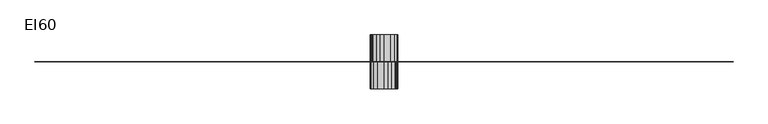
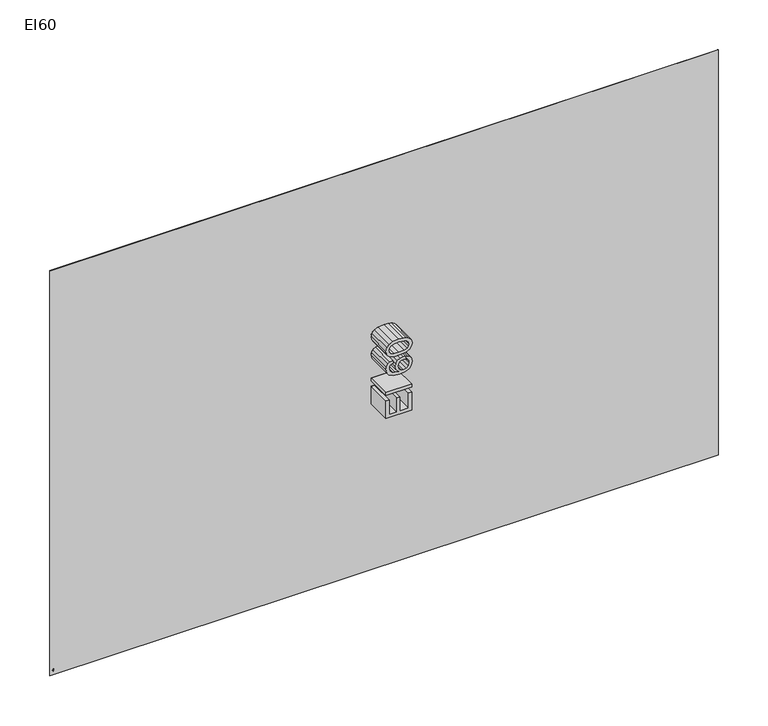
"""IFC4 building model written with IfcOpenShell, lengths in millimetres: proxy geometry, Fire_FireCompartmentationEI : EI60."""

from ifc_helpers import new_model, si_unit, point, frame, frame_2d, origin, origin_with_axes, place, context, project, spatial, polyline, circle_curve, trimmed, segment, composite_curve, outline, extrude, source, transform, mapped, element, save


def ei60_135c5abb(model_context):
    return source(origin(), model_context, "Body", "SweptSolid", [
        extrude(outline(polyline([(3900.0, -0.5), (0.0, -0.5), (0.0, 0.5), (3900.0, 0.5), (3900.0, -0.5)])), origin_with_axes(), (0.0, 0.0, 1.0), 2500.0),
        extrude(outline(composite_curve([segment(trimmed(circle_curve(frame_2d((28.9488523, 20.9372462)), 4.3000253), [point((27.7936078, 25.0791815))], [point((29.724042, 25.1668205))], False, "CARTESIAN"), True, "CONTINUOUS"), segment(trimmed(circle_curve(frame_2d((29.6833004, 19.2917407)), 5.875221), [point((29.724042, 25.1668205))], [point((32.6283278, 24.3755421))], False, "CARTESIAN"), True, "CONTINUOUS"), segment(trimmed(circle_curve(frame_2d((32.8576867, 20.8662932)), 3.5167361), [point((32.6283278, 24.3755421))], [point((30.6249304, 23.5833197))], True, "CARTESIAN"), True, "CONTINUOUS"), segment(trimmed(circle_curve(frame_2d((10.876956, 53.8348059)), 36.1266511), [point((30.6249304, 23.5833197))], [point((25.8949704, 20.9776277))], False, "CARTESIAN"), True, "CONTINUOUS"), segment(trimmed(circle_curve(frame_2d((21.9041848, 33.757735)), 13.3887083), [point((25.8949704, 20.9776277))], [point((22.6832699, 20.3917132))], False, "CARTESIAN"), True, "CONTINUOUS"), segment(trimmed(circle_curve(frame_2d((20.9508608, 39.8789486)), 19.5640891), [point((22.6832699, 20.3917132))], [point((20.0109811, 20.3374489))], False, "CARTESIAN"), True, "CONTINUOUS"), segment(trimmed(circle_curve(frame_2d((18.2722891, 30.1747881)), 9.9898094), [point((20.0109811, 20.3374489))], [point((25.2489423, 23.0247809))], True, "CARTESIAN"), True, "CONTINUOUS"), segment(trimmed(circle_curve(frame_2d((30.9774835, 18.5323372)), 7.2799887), [point((25.2489423, 23.0247809))], [point((27.7936078, 25.0791815))], False, "CARTESIAN"), True, "CONTINUOUS")], self_intersect=False)), frame((0.0, -0.6, 0.0), z_axis=(0.0, 1.0, 0.0), x_axis=(0.0, 0.0, 1.0)), (0.0, 0.0, 1.0), 1.2),
        extrude(outline(composite_curve([segment(trimmed(circle_curve(frame_2d((34.8553456, 17.4656787)), 4.3823741), [point((35.4675373, 21.8050824))], [point((32.7666638, 21.3182897))], True, "CARTESIAN"), True, "CONTINUOUS"), segment(trimmed(circle_curve(frame_2d((31.0348418, 25.2412811)), 4.2882478), [point((32.7666638, 21.3182897))], [point((31.0556823, 20.9530839))], False, "CARTESIAN"), True, "CONTINUOUS"), segment(trimmed(circle_curve(frame_2d((30.8661112, 26.3534755)), 5.4037178), [point((31.0556823, 20.9530839))], [point((28.4262544, 21.5319337))], False, "CARTESIAN"), True, "CONTINUOUS"), segment(trimmed(circle_curve(frame_2d((28.9867579, 26.8058524)), 5.3036197), [point((28.4262544, 21.5319337))], [point((30.6443727, 21.7679267))], True, "CARTESIAN"), True, "CONTINUOUS"), segment(trimmed(circle_curve(frame_2d((33.7648144, 18.2895153)), 4.6729544), [point((30.6443727, 21.7679267))], [point((32.5632515, 22.8053485))], False, "CARTESIAN"), True, "CONTINUOUS"), segment(trimmed(circle_curve(frame_2d((33.1708117, 19.8529583)), 3.0142556), [point((32.5632515, 22.8053485))], [point((35.4675373, 21.8050824))], False, "CARTESIAN"), True, "CONTINUOUS")], self_intersect=False)), frame((0.0, -0.6, 0.0), z_axis=(0.0, 1.0, 0.0), x_axis=(0.0, 0.0, 1.0)), (0.0, 0.0, 1.0), 1.2),
        extrude(outline(composite_curve([segment(trimmed(circle_curve(frame_2d((26.35828, 17.8501973)), 2.1465167), [point((27.6612009, 19.5560492))], [point((26.6135063, 19.9814864))], True, "CARTESIAN"), True, "CONTINUOUS"), segment(trimmed(circle_curve(frame_2d((25.771558, 13.6747037)), 6.3627341), [point((26.6135063, 19.9814864))], [point((25.1811141, 20.0099828))], True, "CARTESIAN"), True, "CONTINUOUS"), segment(trimmed(circle_curve(frame_2d((27.6708438, 15.0485986)), 5.5510437), [point((25.1811141, 20.0099828))], [point((27.8117089, 20.5978547))], False, "CARTESIAN"), True, "CONTINUOUS"), segment(trimmed(circle_curve(frame_2d((27.9681735, 17.2267436)), 3.3747401), [point((27.8117089, 20.5978547))], [point((29.507487, 20.2299728))], False, "CARTESIAN"), True, "CONTINUOUS"), segment(trimmed(circle_curve(frame_2d((31.5381431, 23.6896238)), 4.0115769), [point((29.507487, 20.2299728))], [point((32.2223971, 19.7368341))], True, "CARTESIAN"), True, "CONTINUOUS"), segment(trimmed(circle_curve(frame_2d((29.9256715, 21.6889582)), 3.0142556), [point((32.2223971, 19.7368341))], [point((29.3181113, 18.736568))], False, "CARTESIAN"), True, "CONTINUOUS"), segment(trimmed(circle_curve(frame_2d((30.5170043, 23.2454076)), 4.6655095), [point((29.3181113, 18.736568))], [point((27.6612009, 19.5560492))], False, "CARTESIAN"), True, "CONTINUOUS")], self_intersect=False)), frame((0.0, -0.6, 0.0), z_axis=(0.0, 1.0, 0.0), x_axis=(0.0, 0.0, 1.0)), (0.0, 0.0, 1.0), 1.2),
        extrude(outline(composite_curve([segment(trimmed(circle_curve(frame_2d((32.8467056, 19.4711557)), 3.5167361), [point((30.6139493, 16.7541292))], [point((32.6173467, 15.9619068))], True, "CARTESIAN"), True, "CONTINUOUS"), segment(trimmed(circle_curve(frame_2d((29.6723193, 21.0457082)), 5.875221), [point((32.6173467, 15.9619068))], [point((29.7130609, 15.1706284))], False, "CARTESIAN"), True, "CONTINUOUS"), segment(trimmed(circle_curve(frame_2d((28.9378712, 19.4002026)), 4.3000253), [point((29.7130609, 15.1706284))], [point((27.7826267, 15.2582674))], False, "CARTESIAN"), True, "CONTINUOUS"), segment(trimmed(circle_curve(frame_2d((30.9665024, 21.8051117)), 7.2799887), [point((27.7826267, 15.2582674))], [point((25.2379612, 17.312668))], False, "CARTESIAN"), True, "CONTINUOUS"), segment(trimmed(circle_curve(frame_2d((18.261308, 10.1626608)), 9.9898094), [point((25.2379612, 17.312668))], [point((20.0, 20.0))], True, "CARTESIAN"), True, "CONTINUOUS"), segment(trimmed(circle_curve(frame_2d((20.9398797, 0.4585003)), 19.5640891), [point((20.0, 20.0))], [point((22.6722888, 19.9457357))], False, "CARTESIAN"), True, "CONTINUOUS"), segment(trimmed(circle_curve(frame_2d((21.8932037, 6.5797139)), 13.3887083), [point((22.6722888, 19.9457357))], [point((25.8839893, 19.3598212))], False, "CARTESIAN"), True, "CONTINUOUS"), segment(trimmed(circle_curve(frame_2d((10.8659749, -13.497357)), 36.1266511), [point((25.8839893, 19.3598212))], [point((30.6139493, 16.7541292))], False, "CARTESIAN"), True, "CONTINUOUS")], self_intersect=False)), frame((0.0, -0.6, 0.0), z_axis=(0.0, 1.0, 0.0), x_axis=(0.0, 0.0, 1.0)), (0.0, 0.0, 1.0), 1.2),
        extrude(outline(polyline([(1022.7960798, 1875.0), (1022.7960798, 2025.6844652), (1131.1005392, 2025.6844652), (1131.1005392, 2006.8489071), (1041.6316379, 2006.8489071), (1041.6316379, 1962.1144565), (1126.3916496, 1962.1144565), (1126.3916496, 1943.2788983), (1041.6316379, 1943.2788983), (1041.6316379, 1893.8355582), (1133.4549839, 1893.8355582), (1133.4549839, 1875.0), (1022.7960798, 1875.0)])), frame((0.0, 0.0, 0.0), z_axis=(0.0, 1.0, 0.0), x_axis=(0.0, 0.0, 1.0)), (0.0, 0.0, 1.0), 150.0),
        extrude(outline(polyline([(1875.0, 150.0), (2025.6844652, 150.0), (2025.6844652, 0.0), (1875.0, 0.0), (1875.0, 150.0)])), frame((0.0, 0.0, 1164.0627659), z_axis=(0.0, 0.0, 1.0), x_axis=(1.0, 0.0, 0.0)), (0.0, 0.0, 1.0), 18.8355582),
        extrude(outline(polyline([(1368.8994608, 1985.6589041), (1350.0639027, 1983.3044594), (1342.926992, 1999.0130206), (1334.3829326, 2004.8899354), (1324.0546456, 2006.8489071), (1307.0584975, 2002.2871703), (1294.2010217, 1985.1622635), (1290.296874, 1971.1321639), (1288.8483387, 1951.5930314), (1305.4582108, 1966.6210109), (1326.0412084, 1971.5322355), (1343.4420268, 1968.1753123), (1358.046942, 1958.1045427), (1367.9521647, 1942.7178783), (1371.2539056, 1923.4132706), (1369.6996042, 1909.9257969), (1365.0366999, 1897.4224076), (1357.6514688, 1886.8182091), (1347.9301871, 1879.0283078), (1336.3143131, 1874.2412434), (1323.2453052, 1872.6455552), (1301.8759598, 1876.8761982), (1284.856819, 1889.568127), (1273.7237902, 1911.9721405), (1270.0127805, 1945.3390375), (1274.1330589, 1982.8538039), (1286.4938939, 2008.504376), (1303.3704805, 2021.3894429), (1325.231868, 2025.6844652), (1341.7589666, 2023.0265178), (1354.9935214, 2015.0526756), (1364.2641477, 2002.3883379), (1368.8994608, 1985.6589041)]), holes=[polyline([(1288.8483387, 1923.7075762), (1293.2077403, 1907.3920097), (1304.7960232, 1895.5462094), (1321.7737773, 1891.4811134), (1334.2035902, 1893.5872378), (1343.9754557, 1899.9056111), (1350.3076245, 1909.8384249), (1352.4183475, 1922.7878712), (1350.3352157, 1935.2176841), (1344.0858203, 1944.695244), (1334.1484079, 1950.696319), (1321.0012251, 1952.6966774), (1308.5898063, 1950.696319), (1298.2109355, 1944.695244), (1291.1889879, 1935.4476103), (1288.8483387, 1923.7075762)])]), frame((0.0, 0.0, 0.0), z_axis=(0.0, 1.0, 0.0), x_axis=(0.0, 0.0, 1.0)), (0.0, 0.0, 1.0), 150.0),
        extrude(outline(polyline([(1387.735019, 1949.128222), (1389.119175, 1973.2474853), (1393.271643, 1992.4831152), (1400.1510363, 2007.1294171), (1409.7159682, 2017.4806967), (1422.0354165, 2023.6335231), (1437.1783591, 2025.6844652), (1459.1777025, 2020.8284229), (1474.3712289, 2006.830513), (1483.2003967, 1984.5368641), (1486.6216993, 1949.128222), (1485.2513389, 1925.1469145), (1481.1402576, 1905.9572699), (1474.302251, 1891.2971724), (1464.7511147, 1880.904506), (1452.4040752, 1874.7102929), (1437.1783591, 1872.6455552), (1417.607037, 1876.2324047), (1402.7446044, 1886.992953), (1391.4874153, 1912.4779783), (1387.735019, 1949.128222)]), holes=[polyline([(1406.5705771, 1949.1650102), (1408.7778691, 1919.536714), (1415.399745, 1902.3888145), (1425.2589825, 1894.2080387), (1437.1783591, 1891.4811134), (1449.0977358, 1894.2172357), (1458.9569733, 1902.4256027), (1465.5788492, 1919.5826993), (1467.7861411, 1949.1650102), (1465.6524256, 1978.1265203), (1459.2512789, 1995.407777), (1449.4104355, 2003.9886246), (1436.9576299, 2006.8489071), (1425.167012, 2004.3289154), (1415.6940506, 1996.7689404), (1408.8514455, 1978.4116288), (1406.5705771, 1949.1650102)])]), frame((0.0, 0.0, 0.0), z_axis=(0.0, 1.0, 0.0), x_axis=(0.0, 0.0, 1.0)), (0.0, 0.0, 1.0), 150.0),
        extrude(outline(polyline([(1022.7960798, 2025.0), (1133.4549839, 2025.0), (1133.4549839, 2006.1644418), (1041.6316379, 2006.1644418), (1041.6316379, 1956.7211017), (1126.3916496, 1956.7211017), (1126.3916496, 1937.8855435), (1041.6316379, 1937.8855435), (1041.6316379, 1893.1510929), (1131.1005392, 1893.1510929), (1131.1005392, 1874.3155348), (1022.7960798, 1874.3155348), (1022.7960798, 2025.0)])), frame((0.0, -150.0, 0.0), z_axis=(0.0, 1.0, 0.0), x_axis=(0.0, 0.0, 1.0)), (0.0, 0.0, 1.0), 150.0),
        extrude(outline(polyline([(2025.0, -150.0), (1874.3155348, -150.0), (1874.3155348, 0.0), (2025.0, 0.0), (2025.0, -150.0)])), frame((0.0, 0.0, 1164.0627659), z_axis=(0.0, 0.0, 1.0), x_axis=(1.0, 0.0, 0.0)), (0.0, 0.0, 1.0), 18.8355582),
        extrude(outline(polyline([(1368.8994608, 1914.3410959), (1364.2641477, 1897.6116621), (1354.9935214, 1884.9473244), (1341.7589666, 1876.9734822), (1325.231868, 1874.3155348), (1303.3704805, 1878.6105571), (1286.4938939, 1891.495624), (1274.1330589, 1917.1461961), (1270.0127805, 1954.6609625), (1273.7237902, 1988.0278595), (1284.856819, 2010.431873), (1301.8759598, 2023.1238018), (1323.2453052, 2027.3544448), (1336.3143131, 2025.7587566), (1347.9301871, 2020.9716922), (1357.6514688, 2013.1817909), (1365.0366999, 2002.5775924), (1369.6996042, 1990.0742031), (1371.2539056, 1976.5867294), (1367.9521647, 1957.2821217), (1358.046942, 1941.8954573), (1343.4420268, 1931.8246877), (1326.0412084, 1928.4677645), (1305.4582108, 1933.3789891), (1288.8483387, 1948.4069686), (1290.296874, 1928.8678361), (1294.2010217, 1914.8377365), (1307.0584975, 1897.7128297), (1324.0546456, 1893.1510929), (1334.3829326, 1895.1100646), (1342.926992, 1900.9869794), (1350.0639027, 1916.6955406), (1368.8994608, 1914.3410959)]), holes=[polyline([(1288.8483387, 1976.2924238), (1291.1889879, 1964.5523897), (1298.2109355, 1955.304756), (1308.5898063, 1949.303681), (1321.0012251, 1947.3033226), (1334.1484079, 1949.303681), (1344.0858203, 1955.304756), (1350.3352157, 1964.7823159), (1352.4183475, 1977.2121288), (1350.3076245, 1990.1615751), (1343.9754557, 2000.0943889), (1334.2035902, 2006.4127622), (1321.7737773, 2008.5188866), (1304.7960232, 2004.4537906), (1293.2077403, 1992.6079903), (1288.8483387, 1976.2924238)])]), frame((0.0, -150.0, 0.0), z_axis=(0.0, 1.0, 0.0), x_axis=(0.0, 0.0, 1.0)), (0.0, 0.0, 1.0), 150.0),
        extrude(outline(polyline([(1387.735019, 1950.871778), (1391.4874153, 1987.5220217), (1402.7446044, 2013.007047), (1417.607037, 2023.7675953), (1437.1783591, 2027.3544448), (1452.4040752, 2025.2897071), (1464.7511147, 2019.095494), (1474.302251, 2008.7028276), (1481.1402576, 1994.0427301), (1485.2513389, 1974.8530855), (1486.6216993, 1950.871778), (1483.2003967, 1915.4631359), (1474.3712289, 1893.169487), (1459.1777025, 1879.1715771), (1437.1783591, 1874.3155348), (1422.0354165, 1876.3664769), (1409.7159682, 1882.5193033), (1400.1510363, 1892.8705829), (1393.271643, 1907.5168848), (1389.119175, 1926.7525147), (1387.735019, 1950.871778)]), holes=[polyline([(1406.5705771, 1950.8349898), (1408.8514455, 1921.5883712), (1415.6940506, 1903.2310596), (1425.167012, 1895.6710846), (1436.9576299, 1893.1510929), (1449.4104355, 1896.0113754), (1459.2512789, 1904.592223), (1465.6524256, 1921.8734797), (1467.7861411, 1950.8349898), (1465.5788492, 1980.4173007), (1458.9569733, 1997.5743973), (1449.0977358, 2005.7827643), (1437.1783591, 2008.5188866), (1425.2589825, 2005.7919613), (1415.399745, 1997.6111855), (1408.7778691, 1980.463286), (1406.5705771, 1950.8349898)])]), frame((0.0, -150.0, 0.0), z_axis=(0.0, 1.0, 0.0), x_axis=(0.0, 0.0, 1.0)), (0.0, 0.0, 1.0), 150.0),
    ])


if __name__ == "__main__":
    model = new_model("IFC4")
    model_context = context("Model", 3, world=origin())
    ifc_project = project(units=[si_unit("LENGTHUNIT", "METRE", prefix="MILLI")], contexts=[model_context])
    site = spatial("IfcSite", under=ifc_project)
    building = spatial("IfcBuilding", under=site)
    placement = place(None, origin())
    ei60_shape = ei60_135c5abb(model_context)
    element("IfcBuildingElementProxy", 1, Name="Fire_FireCompartmentationEI : EI60", ObjectType="Fire_FireCompartmentationEI : EI60", at=placement, inside=building, context=model_context, shape_type="MappedRepresentation", body=[
        mapped(ei60_shape, transform((0.0, 0.0, 0.0), x_axis=(1.0, 0.0, 0.0), y_axis=(0.0, 1.0, 0.0), z_axis=(0.0, 0.0, 1.0))),
    ])
    save(model, "model.ifc")
